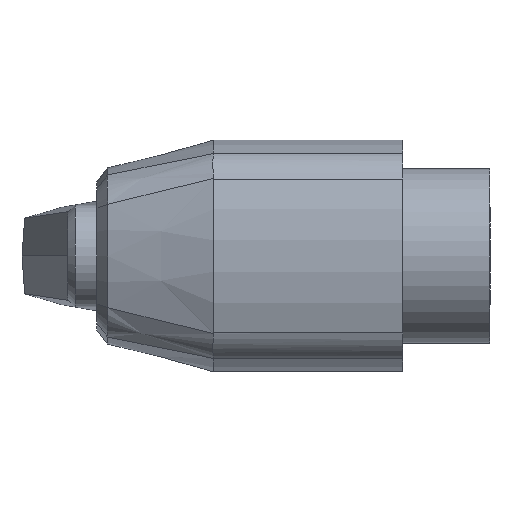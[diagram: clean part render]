
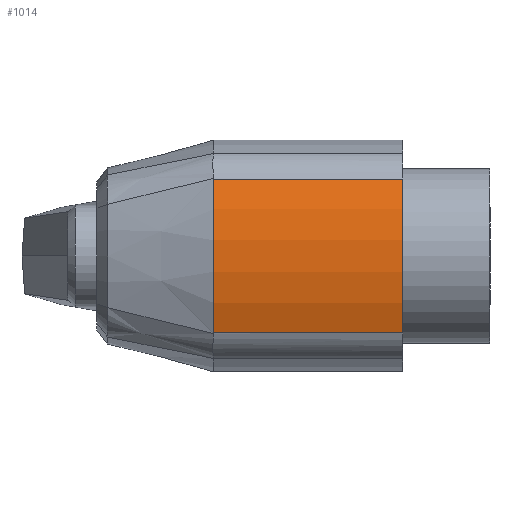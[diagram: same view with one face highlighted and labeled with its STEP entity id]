
A CAD part, left-side view. The second image highlights one B-rep face of the part: STEP entity #1014.
In plain terms, the highlighted cylindrical face has radius 15.262 mm (diameter 30.524 mm), a partial arc.
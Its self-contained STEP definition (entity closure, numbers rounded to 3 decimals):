
#60 = EDGE_CURVE ( 'NONE', #1752, #1795, #323, .T. ) ;
#146 = ORIENTED_EDGE ( 'NONE', *, *, #398, .F. ) ;
#179 = CARTESIAN_POINT ( 'NONE',  ( 7.262, 13., 0. ) ) ;
#323 = LINE ( 'NONE', #504, #1284 ) ;
#370 = DIRECTION ( 'NONE',  ( 0., 1., 0. ) ) ;
#397 = VERTEX_POINT ( 'NONE', #620 ) ;
#398 = EDGE_CURVE ( 'NONE', #1752, #403, #1764, .T. ) ;
#403 = VERTEX_POINT ( 'NONE', #1642 ) ;
#475 = CYLINDRICAL_SURFACE ( 'NONE', #758, 15.262 ) ;
#478 = CARTESIAN_POINT ( 'NONE',  ( 7.262, 13., 0. ) ) ;
#504 = CARTESIAN_POINT ( 'NONE',  ( -7.057, 13., -5.281 ) ) ;
#506 = DIRECTION ( 'NONE',  ( 0., -1., 0. ) ) ;
#519 = VECTOR ( 'NONE', #370, 1000. ) ;
#538 = CARTESIAN_POINT ( 'NONE',  ( -7.057, 13., -5.281 ) ) ;
#596 = ORIENTED_EDGE ( 'NONE', *, *, #1584, .T. ) ;
#620 = CARTESIAN_POINT ( 'NONE',  ( -7.057, 0., 5.281 ) ) ;
#758 = AXIS2_PLACEMENT_3D ( 'NONE', #179, #506, #897 ) ;
#760 = ORIENTED_EDGE ( 'NONE', *, *, #1755, .T. ) ;
#770 = DIRECTION ( 'NONE',  ( 0., 1., 0. ) ) ;
#897 = DIRECTION ( 'NONE',  ( 0., 0., -1. ) ) ;
#1014 = ADVANCED_FACE ( 'NONE', ( #1209 ), #475, .T. ) ;
#1070 = DIRECTION ( 'NONE',  ( 0., -1., 0. ) ) ;
#1076 = CARTESIAN_POINT ( 'NONE',  ( -7.057, 0., -5.281 ) ) ;
#1085 = CARTESIAN_POINT ( 'NONE',  ( -7.057, 13., 5.281 ) ) ;
#1158 = ORIENTED_EDGE ( 'NONE', *, *, #60, .T. ) ;
#1183 = DIRECTION ( 'NONE',  ( 0., 1., 0. ) ) ;
#1209 = FACE_OUTER_BOUND ( 'NONE', #1381, .T. ) ;
#1284 = VECTOR ( 'NONE', #1070, 1000. ) ;
#1340 = CARTESIAN_POINT ( 'NONE',  ( 7.262, 0., 0. ) ) ;
#1381 = EDGE_LOOP ( 'NONE', ( #146, #1158, #596, #760 ) ) ;
#1407 = AXIS2_PLACEMENT_3D ( 'NONE', #1340, #1183, #1450 ) ;
#1450 = DIRECTION ( 'NONE',  ( 0., 0., 1. ) ) ;
#1584 = EDGE_CURVE ( 'NONE', #1795, #397, #1679, .T. ) ;
#1615 = AXIS2_PLACEMENT_3D ( 'NONE', #478, #770, #1769 ) ;
#1642 = CARTESIAN_POINT ( 'NONE',  ( -7.057, 13., 5.281 ) ) ;
#1654 = LINE ( 'NONE', #1085, #519 ) ;
#1679 = CIRCLE ( 'NONE', #1407, 15.262 ) ;
#1752 = VERTEX_POINT ( 'NONE', #538 ) ;
#1755 = EDGE_CURVE ( 'NONE', #397, #403, #1654, .T. ) ;
#1764 = CIRCLE ( 'NONE', #1615, 15.262 ) ;
#1769 = DIRECTION ( 'NONE',  ( 0., 0., -1. ) ) ;
#1795 = VERTEX_POINT ( 'NONE', #1076 ) ;
